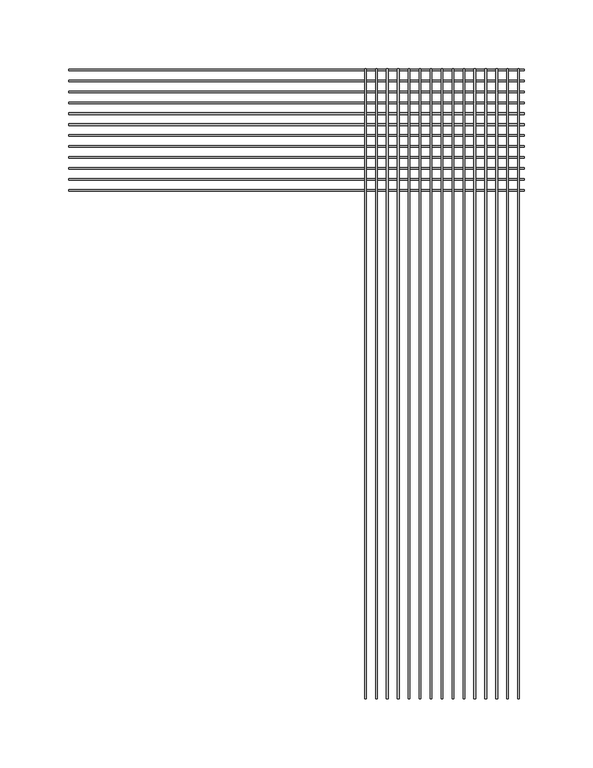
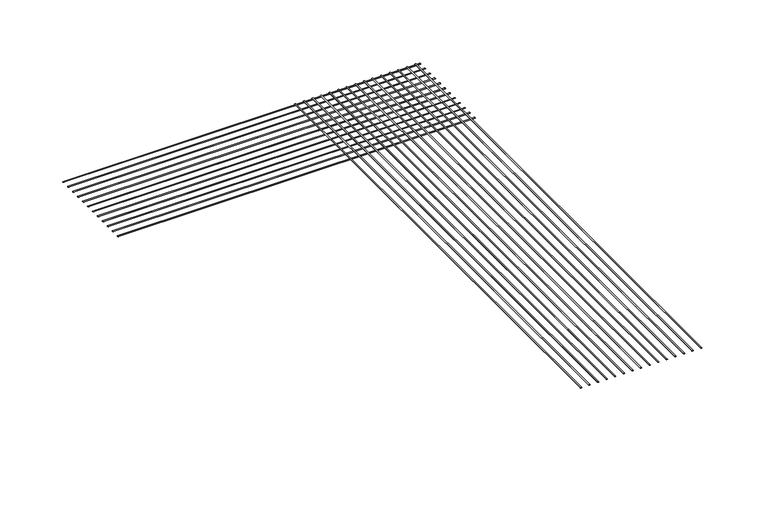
"""IFC4 building model written with IfcOpenShell, lengths in millimetres: proxy geometry, CRAi Generic Model Mesh Piece Face Based : CRAi Generic Model Mesh Piece Face Based."""

from ifc_helpers import new_model, si_unit, point, frame, origin, place, context, project, spatial, ellipse_curve, trimmed, source, transform, mapped, element, save
from ifc_brep_helpers import plane_surface, extruded_surface, advanced_brep


def generic_models_d0d128fb(model_context):
    return source(origin(), model_context, "Body", "AdvancedBrep", [
        advanced_brep(
        [(49.4109375, -228.6, -2.5796875), (50.6015625, -228.6, -2.5796875), (49.4109375, 228.6, -2.5796875), (50.6015625, 228.6, -2.5796875)],
        [
            (0, 1, ellipse_curve(frame((50.00625, -228.6, -2.5796875), z_axis=(0.0, -1.0, 0.0), x_axis=(1.0, 0.0, 0.0)), 0.5953125, 0.1984375)),
            (1, 0, ellipse_curve(frame((50.00625, -228.6, -2.5796875), z_axis=(0.0, -1.0, 0.0), x_axis=(1.0, 0.0, 0.0)), 0.5953125, 0.1984375)),
            (2, 3, ellipse_curve(frame((50.00625, 228.6, -2.5796875), z_axis=(0.0, 1.0, 0.0), x_axis=(1.0, 0.0, 0.0)), 0.5953125, 0.1984375)),
            (3, 2, ellipse_curve(frame((50.00625, 228.6, -2.5796875), z_axis=(0.0, 1.0, 0.0), x_axis=(1.0, 0.0, 0.0)), 0.5953125, 0.1984375)),
            (0, 2),
            (3, 1),
        ],
        [
            plane_surface(frame((50.00625, -228.6, -2.5796875), z_axis=(0.0, -1.0, 0.0), x_axis=(0.0, 0.0, 1.0))),
            plane_surface(frame((50.00625, 228.6, -2.5796875), z_axis=(0.0, 1.0, 0.0), x_axis=(0.0, 0.0, 1.0))),
            extruded_surface(trimmed(ellipse_curve(frame((50.00625, 228.6, -2.5796875), z_axis=(0.0, -1.0, 0.0), x_axis=(1.0, 0.0, 0.0)), 0.5953125, 0.1984375), [point((49.4109375, 228.6, -2.5796875))], [point((50.6015625, 228.6, -2.5796875))], True, "CARTESIAN"), (0.0, -457.2, 0.0), 457.2),
            extruded_surface(trimmed(ellipse_curve(frame((50.00625, 228.6, -2.5796875), z_axis=(0.0, -1.0, 0.0), x_axis=(1.0, 0.0, 0.0)), 0.5953125, 0.1984375), [point((50.6015625, 228.6, -2.5796875))], [point((49.4109375, 228.6, -2.5796875))], True, "CARTESIAN"), (0.0, -457.2, 0.0), 457.2),
        ],
        [
            (0, [[1, 2]]),
            (1, [[3, 4]]),
            (2, [[-1, 5, -4, 6]]),
            (3, [[-2, -6, -3, -5]]),
        ],
    ),
        advanced_brep(
        [(57.3484375, -228.6, -2.5796875), (58.5390625, -228.6, -2.5796875), (57.3484375, 228.6, -2.5796875), (58.5390625, 228.6, -2.5796875)],
        [
            (0, 1, ellipse_curve(frame((57.94375, -228.6, -2.5796875), z_axis=(0.0, -1.0, 0.0), x_axis=(1.0, 0.0, 0.0)), 0.5953125, 0.1984375)),
            (1, 0, ellipse_curve(frame((57.94375, -228.6, -2.5796875), z_axis=(0.0, -1.0, 0.0), x_axis=(1.0, 0.0, 0.0)), 0.5953125, 0.1984375)),
            (2, 3, ellipse_curve(frame((57.94375, 228.6, -2.5796875), z_axis=(0.0, 1.0, 0.0), x_axis=(1.0, 0.0, 0.0)), 0.5953125, 0.1984375)),
            (3, 2, ellipse_curve(frame((57.94375, 228.6, -2.5796875), z_axis=(0.0, 1.0, 0.0), x_axis=(1.0, 0.0, 0.0)), 0.5953125, 0.1984375)),
            (0, 2),
            (3, 1),
        ],
        [
            plane_surface(frame((57.94375, -228.6, -2.5796875), z_axis=(0.0, -1.0, 0.0), x_axis=(0.0, 0.0, 1.0))),
            plane_surface(frame((57.94375, 228.6, -2.5796875), z_axis=(0.0, 1.0, 0.0), x_axis=(0.0, 0.0, 1.0))),
            extruded_surface(trimmed(ellipse_curve(frame((57.94375, 228.6, -2.5796875), z_axis=(0.0, -1.0, 0.0), x_axis=(1.0, 0.0, 0.0)), 0.5953125, 0.1984375), [point((57.3484375, 228.6, -2.5796875))], [point((58.5390625, 228.6, -2.5796875))], True, "CARTESIAN"), (0.0, -457.2, 0.0), 457.2),
            extruded_surface(trimmed(ellipse_curve(frame((57.94375, 228.6, -2.5796875), z_axis=(0.0, -1.0, 0.0), x_axis=(1.0, 0.0, 0.0)), 0.5953125, 0.1984375), [point((58.5390625, 228.6, -2.5796875))], [point((57.3484375, 228.6, -2.5796875))], True, "CARTESIAN"), (0.0, -457.2, 0.0), 457.2),
        ],
        [
            (0, [[1, 2]]),
            (1, [[3, 4]]),
            (2, [[-1, 5, -4, 6]]),
            (3, [[-2, -6, -3, -5]]),
        ],
    ),
        advanced_brep(
        [(65.2859375, -228.6, -2.5796875), (66.4765625, -228.6, -2.5796875), (65.2859375, 228.6, -2.5796875), (66.4765625, 228.6, -2.5796875)],
        [
            (0, 1, ellipse_curve(frame((65.88125, -228.6, -2.5796875), z_axis=(0.0, -1.0, 0.0), x_axis=(1.0, 0.0, 0.0)), 0.5953125, 0.1984375)),
            (1, 0, ellipse_curve(frame((65.88125, -228.6, -2.5796875), z_axis=(0.0, -1.0, 0.0), x_axis=(1.0, 0.0, 0.0)), 0.5953125, 0.1984375)),
            (2, 3, ellipse_curve(frame((65.88125, 228.6, -2.5796875), z_axis=(0.0, 1.0, 0.0), x_axis=(1.0, 0.0, 0.0)), 0.5953125, 0.1984375)),
            (3, 2, ellipse_curve(frame((65.88125, 228.6, -2.5796875), z_axis=(0.0, 1.0, 0.0), x_axis=(1.0, 0.0, 0.0)), 0.5953125, 0.1984375)),
            (0, 2),
            (3, 1),
        ],
        [
            plane_surface(frame((65.88125, -228.6, -2.5796875), z_axis=(0.0, -1.0, 0.0), x_axis=(0.0, 0.0, 1.0))),
            plane_surface(frame((65.88125, 228.6, -2.5796875), z_axis=(0.0, 1.0, 0.0), x_axis=(0.0, 0.0, 1.0))),
            extruded_surface(trimmed(ellipse_curve(frame((65.88125, 228.6, -2.5796875), z_axis=(0.0, -1.0, 0.0), x_axis=(1.0, 0.0, 0.0)), 0.5953125, 0.1984375), [point((65.2859375, 228.6, -2.5796875))], [point((66.4765625, 228.6, -2.5796875))], True, "CARTESIAN"), (0.0, -457.2, 0.0), 457.2),
            extruded_surface(trimmed(ellipse_curve(frame((65.88125, 228.6, -2.5796875), z_axis=(0.0, -1.0, 0.0), x_axis=(1.0, 0.0, 0.0)), 0.5953125, 0.1984375), [point((66.4765625, 228.6, -2.5796875))], [point((65.2859375, 228.6, -2.5796875))], True, "CARTESIAN"), (0.0, -457.2, 0.0), 457.2),
        ],
        [
            (0, [[1, 2]]),
            (1, [[3, 4]]),
            (2, [[-1, 5, -4, 6]]),
            (3, [[-2, -6, -3, -5]]),
        ],
    ),
        advanced_brep(
        [(73.2234375, -228.6, -2.5796875), (74.4140625, -228.6, -2.5796875), (73.2234375, 228.6, -2.5796875), (74.4140625, 228.6, -2.5796875)],
        [
            (0, 1, ellipse_curve(frame((73.81875, -228.6, -2.5796875), z_axis=(0.0, -1.0, 0.0), x_axis=(1.0, 0.0, 0.0)), 0.5953125, 0.1984375)),
            (1, 0, ellipse_curve(frame((73.81875, -228.6, -2.5796875), z_axis=(0.0, -1.0, 0.0), x_axis=(1.0, 0.0, 0.0)), 0.5953125, 0.1984375)),
            (2, 3, ellipse_curve(frame((73.81875, 228.6, -2.5796875), z_axis=(0.0, 1.0, 0.0), x_axis=(1.0, 0.0, 0.0)), 0.5953125, 0.1984375)),
            (3, 2, ellipse_curve(frame((73.81875, 228.6, -2.5796875), z_axis=(0.0, 1.0, 0.0), x_axis=(1.0, 0.0, 0.0)), 0.5953125, 0.1984375)),
            (0, 2),
            (3, 1),
        ],
        [
            plane_surface(frame((73.81875, -228.6, -2.5796875), z_axis=(0.0, -1.0, 0.0), x_axis=(0.0, 0.0, 1.0))),
            plane_surface(frame((73.81875, 228.6, -2.5796875), z_axis=(0.0, 1.0, 0.0), x_axis=(0.0, 0.0, 1.0))),
            extruded_surface(trimmed(ellipse_curve(frame((73.81875, 228.6, -2.5796875), z_axis=(0.0, -1.0, 0.0), x_axis=(1.0, 0.0, 0.0)), 0.5953125, 0.1984375), [point((73.2234375, 228.6, -2.5796875))], [point((74.4140625, 228.6, -2.5796875))], True, "CARTESIAN"), (0.0, -457.2, 0.0), 457.2),
            extruded_surface(trimmed(ellipse_curve(frame((73.81875, 228.6, -2.5796875), z_axis=(0.0, -1.0, 0.0), x_axis=(1.0, 0.0, 0.0)), 0.5953125, 0.1984375), [point((74.4140625, 228.6, -2.5796875))], [point((73.2234375, 228.6, -2.5796875))], True, "CARTESIAN"), (0.0, -457.2, 0.0), 457.2),
        ],
        [
            (0, [[1, 2]]),
            (1, [[3, 4]]),
            (2, [[-1, 5, -4, 6]]),
            (3, [[-2, -6, -3, -5]]),
        ],
    ),
        advanced_brep(
        [(81.1609375, -228.6, -2.5796875), (82.3515625, -228.6, -2.5796875), (81.1609375, 228.6, -2.5796875), (82.3515625, 228.6, -2.5796875)],
        [
            (0, 1, ellipse_curve(frame((81.75625, -228.6, -2.5796875), z_axis=(0.0, -1.0, 0.0), x_axis=(1.0, 0.0, 0.0)), 0.5953125, 0.1984375)),
            (1, 0, ellipse_curve(frame((81.75625, -228.6, -2.5796875), z_axis=(0.0, -1.0, 0.0), x_axis=(1.0, 0.0, 0.0)), 0.5953125, 0.1984375)),
            (2, 3, ellipse_curve(frame((81.75625, 228.6, -2.5796875), z_axis=(0.0, 1.0, 0.0), x_axis=(1.0, 0.0, 0.0)), 0.5953125, 0.1984375)),
            (3, 2, ellipse_curve(frame((81.75625, 228.6, -2.5796875), z_axis=(0.0, 1.0, 0.0), x_axis=(1.0, 0.0, 0.0)), 0.5953125, 0.1984375)),
            (0, 2),
            (3, 1),
        ],
        [
            plane_surface(frame((81.75625, -228.6, -2.5796875), z_axis=(0.0, -1.0, 0.0), x_axis=(0.0, 0.0, 1.0))),
            plane_surface(frame((81.75625, 228.6, -2.5796875), z_axis=(0.0, 1.0, 0.0), x_axis=(0.0, 0.0, 1.0))),
            extruded_surface(trimmed(ellipse_curve(frame((81.75625, 228.6, -2.5796875), z_axis=(0.0, -1.0, 0.0), x_axis=(1.0, 0.0, 0.0)), 0.5953125, 0.1984375), [point((81.1609375, 228.6, -2.5796875))], [point((82.3515625, 228.6, -2.5796875))], True, "CARTESIAN"), (0.0, -457.2, 0.0), 457.2),
            extruded_surface(trimmed(ellipse_curve(frame((81.75625, 228.6, -2.5796875), z_axis=(0.0, -1.0, 0.0), x_axis=(1.0, 0.0, 0.0)), 0.5953125, 0.1984375), [point((82.3515625, 228.6, -2.5796875))], [point((81.1609375, 228.6, -2.5796875))], True, "CARTESIAN"), (0.0, -457.2, 0.0), 457.2),
        ],
        [
            (0, [[1, 2]]),
            (1, [[3, 4]]),
            (2, [[-1, 5, -4, 6]]),
            (3, [[-2, -6, -3, -5]]),
        ],
    ),
        advanced_brep(
        [(89.0984375, -228.6, -2.5796875), (90.2890625, -228.6, -2.5796875), (89.0984375, 228.6, -2.5796875), (90.2890625, 228.6, -2.5796875)],
        [
            (0, 1, ellipse_curve(frame((89.69375, -228.6, -2.5796875), z_axis=(0.0, -1.0, 0.0), x_axis=(1.0, 0.0, 0.0)), 0.5953125, 0.1984375)),
            (1, 0, ellipse_curve(frame((89.69375, -228.6, -2.5796875), z_axis=(0.0, -1.0, 0.0), x_axis=(1.0, 0.0, 0.0)), 0.5953125, 0.1984375)),
            (2, 3, ellipse_curve(frame((89.69375, 228.6, -2.5796875), z_axis=(0.0, 1.0, 0.0), x_axis=(1.0, 0.0, 0.0)), 0.5953125, 0.1984375)),
            (3, 2, ellipse_curve(frame((89.69375, 228.6, -2.5796875), z_axis=(0.0, 1.0, 0.0), x_axis=(1.0, 0.0, 0.0)), 0.5953125, 0.1984375)),
            (0, 2),
            (3, 1),
        ],
        [
            plane_surface(frame((89.69375, -228.6, -2.5796875), z_axis=(0.0, -1.0, 0.0), x_axis=(0.0, 0.0, 1.0))),
            plane_surface(frame((89.69375, 228.6, -2.5796875), z_axis=(0.0, 1.0, 0.0), x_axis=(0.0, 0.0, 1.0))),
            extruded_surface(trimmed(ellipse_curve(frame((89.69375, 228.6, -2.5796875), z_axis=(0.0, -1.0, 0.0), x_axis=(1.0, 0.0, 0.0)), 0.5953125, 0.1984375), [point((89.0984375, 228.6, -2.5796875))], [point((90.2890625, 228.6, -2.5796875))], True, "CARTESIAN"), (0.0, -457.2, 0.0), 457.2),
            extruded_surface(trimmed(ellipse_curve(frame((89.69375, 228.6, -2.5796875), z_axis=(0.0, -1.0, 0.0), x_axis=(1.0, 0.0, 0.0)), 0.5953125, 0.1984375), [point((90.2890625, 228.6, -2.5796875))], [point((89.0984375, 228.6, -2.5796875))], True, "CARTESIAN"), (0.0, -457.2, 0.0), 457.2),
        ],
        [
            (0, [[1, 2]]),
            (1, [[3, 4]]),
            (2, [[-1, 5, -4, 6]]),
            (3, [[-2, -6, -3, -5]]),
        ],
    ),
        advanced_brep(
        [(97.0359375, -228.6, -2.5796875), (98.2265625, -228.6, -2.5796875), (97.0359375, 228.6, -2.5796875), (98.2265625, 228.6, -2.5796875)],
        [
            (0, 1, ellipse_curve(frame((97.63125, -228.6, -2.5796875), z_axis=(0.0, -1.0, 0.0), x_axis=(1.0, 0.0, 0.0)), 0.5953125, 0.1984375)),
            (1, 0, ellipse_curve(frame((97.63125, -228.6, -2.5796875), z_axis=(0.0, -1.0, 0.0), x_axis=(1.0, 0.0, 0.0)), 0.5953125, 0.1984375)),
            (2, 3, ellipse_curve(frame((97.63125, 228.6, -2.5796875), z_axis=(0.0, 1.0, 0.0), x_axis=(1.0, 0.0, 0.0)), 0.5953125, 0.1984375)),
            (3, 2, ellipse_curve(frame((97.63125, 228.6, -2.5796875), z_axis=(0.0, 1.0, 0.0), x_axis=(1.0, 0.0, 0.0)), 0.5953125, 0.1984375)),
            (0, 2),
            (3, 1),
        ],
        [
            plane_surface(frame((97.63125, -228.6, -2.5796875), z_axis=(0.0, -1.0, 0.0), x_axis=(0.0, 0.0, 1.0))),
            plane_surface(frame((97.63125, 228.6, -2.5796875), z_axis=(0.0, 1.0, 0.0), x_axis=(0.0, 0.0, 1.0))),
            extruded_surface(trimmed(ellipse_curve(frame((97.63125, 228.6, -2.5796875), z_axis=(0.0, -1.0, 0.0), x_axis=(1.0, 0.0, 0.0)), 0.5953125, 0.1984375), [point((97.0359375, 228.6, -2.5796875))], [point((98.2265625, 228.6, -2.5796875))], True, "CARTESIAN"), (0.0, -457.2, 0.0), 457.2),
            extruded_surface(trimmed(ellipse_curve(frame((97.63125, 228.6, -2.5796875), z_axis=(0.0, -1.0, 0.0), x_axis=(1.0, 0.0, 0.0)), 0.5953125, 0.1984375), [point((98.2265625, 228.6, -2.5796875))], [point((97.0359375, 228.6, -2.5796875))], True, "CARTESIAN"), (0.0, -457.2, 0.0), 457.2),
        ],
        [
            (0, [[1, 2]]),
            (1, [[3, 4]]),
            (2, [[-1, 5, -4, 6]]),
            (3, [[-2, -6, -3, -5]]),
        ],
    ),
        advanced_brep(
        [(104.9734375, -228.6, -2.5796875), (106.1640625, -228.6, -2.5796875), (104.9734375, 228.6, -2.5796875), (106.1640625, 228.6, -2.5796875)],
        [
            (0, 1, ellipse_curve(frame((105.56875, -228.6, -2.5796875), z_axis=(0.0, -1.0, 0.0), x_axis=(1.0, 0.0, 0.0)), 0.5953125, 0.1984375)),
            (1, 0, ellipse_curve(frame((105.56875, -228.6, -2.5796875), z_axis=(0.0, -1.0, 0.0), x_axis=(1.0, 0.0, 0.0)), 0.5953125, 0.1984375)),
            (2, 3, ellipse_curve(frame((105.56875, 228.6, -2.5796875), z_axis=(0.0, 1.0, 0.0), x_axis=(1.0, 0.0, 0.0)), 0.5953125, 0.1984375)),
            (3, 2, ellipse_curve(frame((105.56875, 228.6, -2.5796875), z_axis=(0.0, 1.0, 0.0), x_axis=(1.0, 0.0, 0.0)), 0.5953125, 0.1984375)),
            (0, 2),
            (3, 1),
        ],
        [
            plane_surface(frame((105.56875, -228.6, -2.5796875), z_axis=(0.0, -1.0, 0.0), x_axis=(0.0, 0.0, 1.0))),
            plane_surface(frame((105.56875, 228.6, -2.5796875), z_axis=(0.0, 1.0, 0.0), x_axis=(0.0, 0.0, 1.0))),
            extruded_surface(trimmed(ellipse_curve(frame((105.56875, 228.6, -2.5796875), z_axis=(0.0, -1.0, 0.0), x_axis=(1.0, 0.0, 0.0)), 0.5953125, 0.1984375), [point((104.9734375, 228.6, -2.5796875))], [point((106.1640625, 228.6, -2.5796875))], True, "CARTESIAN"), (0.0, -457.2, 0.0), 457.2),
            extruded_surface(trimmed(ellipse_curve(frame((105.56875, 228.6, -2.5796875), z_axis=(0.0, -1.0, 0.0), x_axis=(1.0, 0.0, 0.0)), 0.5953125, 0.1984375), [point((106.1640625, 228.6, -2.5796875))], [point((104.9734375, 228.6, -2.5796875))], True, "CARTESIAN"), (0.0, -457.2, 0.0), 457.2),
        ],
        [
            (0, [[1, 2]]),
            (1, [[3, 4]]),
            (2, [[-1, 5, -4, 6]]),
            (3, [[-2, -6, -3, -5]]),
        ],
    ),
        advanced_brep(
        [(112.9109375, -228.6, -2.5796875), (114.1015625, -228.6, -2.5796875), (112.9109375, 228.6, -2.5796875), (114.1015625, 228.6, -2.5796875)],
        [
            (0, 1, ellipse_curve(frame((113.50625, -228.6, -2.5796875), z_axis=(0.0, -1.0, 0.0), x_axis=(1.0, 0.0, 0.0)), 0.5953125, 0.1984375)),
            (1, 0, ellipse_curve(frame((113.50625, -228.6, -2.5796875), z_axis=(0.0, -1.0, 0.0), x_axis=(1.0, 0.0, 0.0)), 0.5953125, 0.1984375)),
            (2, 3, ellipse_curve(frame((113.50625, 228.6, -2.5796875), z_axis=(0.0, 1.0, 0.0), x_axis=(1.0, 0.0, 0.0)), 0.5953125, 0.1984375)),
            (3, 2, ellipse_curve(frame((113.50625, 228.6, -2.5796875), z_axis=(0.0, 1.0, 0.0), x_axis=(1.0, 0.0, 0.0)), 0.5953125, 0.1984375)),
            (0, 2),
            (3, 1),
        ],
        [
            plane_surface(frame((113.50625, -228.6, -2.5796875), z_axis=(0.0, -1.0, 0.0), x_axis=(0.0, 0.0, 1.0))),
            plane_surface(frame((113.50625, 228.6, -2.5796875), z_axis=(0.0, 1.0, 0.0), x_axis=(0.0, 0.0, 1.0))),
            extruded_surface(trimmed(ellipse_curve(frame((113.50625, 228.6, -2.5796875), z_axis=(0.0, -1.0, 0.0), x_axis=(1.0, 0.0, 0.0)), 0.5953125, 0.1984375), [point((112.9109375, 228.6, -2.5796875))], [point((114.1015625, 228.6, -2.5796875))], True, "CARTESIAN"), (0.0, -457.2, 0.0), 457.2),
            extruded_surface(trimmed(ellipse_curve(frame((113.50625, 228.6, -2.5796875), z_axis=(0.0, -1.0, 0.0), x_axis=(1.0, 0.0, 0.0)), 0.5953125, 0.1984375), [point((114.1015625, 228.6, -2.5796875))], [point((112.9109375, 228.6, -2.5796875))], True, "CARTESIAN"), (0.0, -457.2, 0.0), 457.2),
        ],
        [
            (0, [[1, 2]]),
            (1, [[3, 4]]),
            (2, [[-1, 5, -4, 6]]),
            (3, [[-2, -6, -3, -5]]),
        ],
    ),
        advanced_brep(
        [(120.8484375, -228.6, -2.5796875), (122.0390625, -228.6, -2.5796875), (120.8484375, 228.6, -2.5796875), (122.0390625, 228.6, -2.5796875)],
        [
            (0, 1, ellipse_curve(frame((121.44375, -228.6, -2.5796875), z_axis=(0.0, -1.0, 0.0), x_axis=(1.0, 0.0, 0.0)), 0.5953125, 0.1984375)),
            (1, 0, ellipse_curve(frame((121.44375, -228.6, -2.5796875), z_axis=(0.0, -1.0, 0.0), x_axis=(1.0, 0.0, 0.0)), 0.5953125, 0.1984375)),
            (2, 3, ellipse_curve(frame((121.44375, 228.6, -2.5796875), z_axis=(0.0, 1.0, 0.0), x_axis=(1.0, 0.0, 0.0)), 0.5953125, 0.1984375)),
            (3, 2, ellipse_curve(frame((121.44375, 228.6, -2.5796875), z_axis=(0.0, 1.0, 0.0), x_axis=(1.0, 0.0, 0.0)), 0.5953125, 0.1984375)),
            (0, 2),
            (3, 1),
        ],
        [
            plane_surface(frame((121.44375, -228.6, -2.5796875), z_axis=(0.0, -1.0, 0.0), x_axis=(0.0, 0.0, 1.0))),
            plane_surface(frame((121.44375, 228.6, -2.5796875), z_axis=(0.0, 1.0, 0.0), x_axis=(0.0, 0.0, 1.0))),
            extruded_surface(trimmed(ellipse_curve(frame((121.44375, 228.6, -2.5796875), z_axis=(0.0, -1.0, 0.0), x_axis=(1.0, 0.0, 0.0)), 0.5953125, 0.1984375), [point((120.8484375, 228.6, -2.5796875))], [point((122.0390625, 228.6, -2.5796875))], True, "CARTESIAN"), (0.0, -457.2, 0.0), 457.2),
            extruded_surface(trimmed(ellipse_curve(frame((121.44375, 228.6, -2.5796875), z_axis=(0.0, -1.0, 0.0), x_axis=(1.0, 0.0, 0.0)), 0.5953125, 0.1984375), [point((122.0390625, 228.6, -2.5796875))], [point((120.8484375, 228.6, -2.5796875))], True, "CARTESIAN"), (0.0, -457.2, 0.0), 457.2),
        ],
        [
            (0, [[1, 2]]),
            (1, [[3, 4]]),
            (2, [[-1, 5, -4, 6]]),
            (3, [[-2, -6, -3, -5]]),
        ],
    ),
        advanced_brep(
        [(128.7859375, -228.6, -2.5796875), (129.9765625, -228.6, -2.5796875), (128.7859375, 228.6, -2.5796875), (129.9765625, 228.6, -2.5796875)],
        [
            (0, 1, ellipse_curve(frame((129.38125, -228.6, -2.5796875), z_axis=(0.0, -1.0, 0.0), x_axis=(1.0, 0.0, 0.0)), 0.5953125, 0.1984375)),
            (1, 0, ellipse_curve(frame((129.38125, -228.6, -2.5796875), z_axis=(0.0, -1.0, 0.0), x_axis=(1.0, 0.0, 0.0)), 0.5953125, 0.1984375)),
            (2, 3, ellipse_curve(frame((129.38125, 228.6, -2.5796875), z_axis=(0.0, 1.0, 0.0), x_axis=(1.0, 0.0, 0.0)), 0.5953125, 0.1984375)),
            (3, 2, ellipse_curve(frame((129.38125, 228.6, -2.5796875), z_axis=(0.0, 1.0, 0.0), x_axis=(1.0, 0.0, 0.0)), 0.5953125, 0.1984375)),
            (0, 2),
            (3, 1),
        ],
        [
            plane_surface(frame((129.38125, -228.6, -2.5796875), z_axis=(0.0, -1.0, 0.0), x_axis=(0.0, 0.0, 1.0))),
            plane_surface(frame((129.38125, 228.6, -2.5796875), z_axis=(0.0, 1.0, 0.0), x_axis=(0.0, 0.0, 1.0))),
            extruded_surface(trimmed(ellipse_curve(frame((129.38125, 228.6, -2.5796875), z_axis=(0.0, -1.0, 0.0), x_axis=(1.0, 0.0, 0.0)), 0.5953125, 0.1984375), [point((128.7859375, 228.6, -2.5796875))], [point((129.9765625, 228.6, -2.5796875))], True, "CARTESIAN"), (0.0, -457.2, 0.0), 457.2),
            extruded_surface(trimmed(ellipse_curve(frame((129.38125, 228.6, -2.5796875), z_axis=(0.0, -1.0, 0.0), x_axis=(1.0, 0.0, 0.0)), 0.5953125, 0.1984375), [point((129.9765625, 228.6, -2.5796875))], [point((128.7859375, 228.6, -2.5796875))], True, "CARTESIAN"), (0.0, -457.2, 0.0), 457.2),
        ],
        [
            (0, [[1, 2]]),
            (1, [[3, 4]]),
            (2, [[-1, 5, -4, 6]]),
            (3, [[-2, -6, -3, -5]]),
        ],
    ),
        advanced_brep(
        [(136.7234375, -228.6, -2.5796875), (137.9140625, -228.6, -2.5796875), (136.7234375, 228.6, -2.5796875), (137.9140625, 228.6, -2.5796875)],
        [
            (0, 1, ellipse_curve(frame((137.31875, -228.6, -2.5796875), z_axis=(0.0, -1.0, 0.0), x_axis=(1.0, 0.0, 0.0)), 0.5953125, 0.1984375)),
            (1, 0, ellipse_curve(frame((137.31875, -228.6, -2.5796875), z_axis=(0.0, -1.0, 0.0), x_axis=(1.0, 0.0, 0.0)), 0.5953125, 0.1984375)),
            (2, 3, ellipse_curve(frame((137.31875, 228.6, -2.5796875), z_axis=(0.0, 1.0, 0.0), x_axis=(1.0, 0.0, 0.0)), 0.5953125, 0.1984375)),
            (3, 2, ellipse_curve(frame((137.31875, 228.6, -2.5796875), z_axis=(0.0, 1.0, 0.0), x_axis=(1.0, 0.0, 0.0)), 0.5953125, 0.1984375)),
            (0, 2),
            (3, 1),
        ],
        [
            plane_surface(frame((137.31875, -228.6, -2.5796875), z_axis=(0.0, -1.0, 0.0), x_axis=(0.0, 0.0, 1.0))),
            plane_surface(frame((137.31875, 228.6, -2.5796875), z_axis=(0.0, 1.0, 0.0), x_axis=(0.0, 0.0, 1.0))),
            extruded_surface(trimmed(ellipse_curve(frame((137.31875, 228.6, -2.5796875), z_axis=(0.0, -1.0, 0.0), x_axis=(1.0, 0.0, 0.0)), 0.5953125, 0.1984375), [point((136.7234375, 228.6, -2.5796875))], [point((137.9140625, 228.6, -2.5796875))], True, "CARTESIAN"), (0.0, -457.2, 0.0), 457.2),
            extruded_surface(trimmed(ellipse_curve(frame((137.31875, 228.6, -2.5796875), z_axis=(0.0, -1.0, 0.0), x_axis=(1.0, 0.0, 0.0)), 0.5953125, 0.1984375), [point((137.9140625, 228.6, -2.5796875))], [point((136.7234375, 228.6, -2.5796875))], True, "CARTESIAN"), (0.0, -457.2, 0.0), 457.2),
        ],
        [
            (0, [[1, 2]]),
            (1, [[3, 4]]),
            (2, [[-1, 5, -4, 6]]),
            (3, [[-2, -6, -3, -5]]),
        ],
    ),
        advanced_brep(
        [(144.6609375, -228.6, -2.5796875), (145.8515625, -228.6, -2.5796875), (144.6609375, 228.6, -2.5796875), (145.8515625, 228.6, -2.5796875)],
        [
            (0, 1, ellipse_curve(frame((145.25625, -228.6, -2.5796875), z_axis=(0.0, -1.0, 0.0), x_axis=(1.0, 0.0, 0.0)), 0.5953125, 0.1984375)),
            (1, 0, ellipse_curve(frame((145.25625, -228.6, -2.5796875), z_axis=(0.0, -1.0, 0.0), x_axis=(1.0, 0.0, 0.0)), 0.5953125, 0.1984375)),
            (2, 3, ellipse_curve(frame((145.25625, 228.6, -2.5796875), z_axis=(0.0, 1.0, 0.0), x_axis=(1.0, 0.0, 0.0)), 0.5953125, 0.1984375)),
            (3, 2, ellipse_curve(frame((145.25625, 228.6, -2.5796875), z_axis=(0.0, 1.0, 0.0), x_axis=(1.0, 0.0, 0.0)), 0.5953125, 0.1984375)),
            (0, 2),
            (3, 1),
        ],
        [
            plane_surface(frame((145.25625, -228.6, -2.5796875), z_axis=(0.0, -1.0, 0.0), x_axis=(0.0, 0.0, 1.0))),
            plane_surface(frame((145.25625, 228.6, -2.5796875), z_axis=(0.0, 1.0, 0.0), x_axis=(0.0, 0.0, 1.0))),
            extruded_surface(trimmed(ellipse_curve(frame((145.25625, 228.6, -2.5796875), z_axis=(0.0, -1.0, 0.0), x_axis=(1.0, 0.0, 0.0)), 0.5953125, 0.1984375), [point((144.6609375, 228.6, -2.5796875))], [point((145.8515625, 228.6, -2.5796875))], True, "CARTESIAN"), (0.0, -457.2, 0.0), 457.2),
            extruded_surface(trimmed(ellipse_curve(frame((145.25625, 228.6, -2.5796875), z_axis=(0.0, -1.0, 0.0), x_axis=(1.0, 0.0, 0.0)), 0.5953125, 0.1984375), [point((145.8515625, 228.6, -2.5796875))], [point((144.6609375, 228.6, -2.5796875))], True, "CARTESIAN"), (0.0, -457.2, 0.0), 457.2),
        ],
        [
            (0, [[1, 2]]),
            (1, [[3, 4]]),
            (2, [[-1, 5, -4, 6]]),
            (3, [[-2, -6, -3, -5]]),
        ],
    ),
        advanced_brep(
        [(152.5984375, -228.6, -2.5796875), (153.7890625, -228.6, -2.5796875), (152.5984375, 228.6, -2.5796875), (153.7890625, 228.6, -2.5796875)],
        [
            (0, 1, ellipse_curve(frame((153.19375, -228.6, -2.5796875), z_axis=(0.0, -1.0, 0.0), x_axis=(1.0, 0.0, 0.0)), 0.5953125, 0.1984375)),
            (1, 0, ellipse_curve(frame((153.19375, -228.6, -2.5796875), z_axis=(0.0, -1.0, 0.0), x_axis=(1.0, 0.0, 0.0)), 0.5953125, 0.1984375)),
            (2, 3, ellipse_curve(frame((153.19375, 228.6, -2.5796875), z_axis=(0.0, 1.0, 0.0), x_axis=(1.0, 0.0, 0.0)), 0.5953125, 0.1984375)),
            (3, 2, ellipse_curve(frame((153.19375, 228.6, -2.5796875), z_axis=(0.0, 1.0, 0.0), x_axis=(1.0, 0.0, 0.0)), 0.5953125, 0.1984375)),
            (0, 2),
            (3, 1),
        ],
        [
            plane_surface(frame((153.19375, -228.6, -2.5796875), z_axis=(0.0, -1.0, 0.0), x_axis=(0.0, 0.0, 1.0))),
            plane_surface(frame((153.19375, 228.6, -2.5796875), z_axis=(0.0, 1.0, 0.0), x_axis=(0.0, 0.0, 1.0))),
            extruded_surface(trimmed(ellipse_curve(frame((153.19375, 228.6, -2.5796875), z_axis=(0.0, -1.0, 0.0), x_axis=(1.0, 0.0, 0.0)), 0.5953125, 0.1984375), [point((152.5984375, 228.6, -2.5796875))], [point((153.7890625, 228.6, -2.5796875))], True, "CARTESIAN"), (0.0, -457.2, 0.0), 457.2),
            extruded_surface(trimmed(ellipse_curve(frame((153.19375, 228.6, -2.5796875), z_axis=(0.0, -1.0, 0.0), x_axis=(1.0, 0.0, 0.0)), 0.5953125, 0.1984375), [point((153.7890625, 228.6, -2.5796875))], [point((152.5984375, 228.6, -2.5796875))], True, "CARTESIAN"), (0.0, -457.2, 0.0), 457.2),
        ],
        [
            (0, [[1, 2]]),
            (1, [[3, 4]]),
            (2, [[-1, 5, -4, 6]]),
            (3, [[-2, -6, -3, -5]]),
        ],
    ),
        advanced_brep(
        [(160.5359375, -228.6, -2.5796875), (161.7265625, -228.6, -2.5796875), (160.5359375, 228.6, -2.5796875), (161.7265625, 228.6, -2.5796875)],
        [
            (0, 1, ellipse_curve(frame((161.13125, -228.6, -2.5796875), z_axis=(0.0, -1.0, 0.0), x_axis=(1.0, 0.0, 0.0)), 0.5953125, 0.1984375)),
            (1, 0, ellipse_curve(frame((161.13125, -228.6, -2.5796875), z_axis=(0.0, -1.0, 0.0), x_axis=(1.0, 0.0, 0.0)), 0.5953125, 0.1984375)),
            (2, 3, ellipse_curve(frame((161.13125, 228.6, -2.5796875), z_axis=(0.0, 1.0, 0.0), x_axis=(1.0, 0.0, 0.0)), 0.5953125, 0.1984375)),
            (3, 2, ellipse_curve(frame((161.13125, 228.6, -2.5796875), z_axis=(0.0, 1.0, 0.0), x_axis=(1.0, 0.0, 0.0)), 0.5953125, 0.1984375)),
            (0, 2),
            (3, 1),
        ],
        [
            plane_surface(frame((161.13125, -228.6, -2.5796875), z_axis=(0.0, -1.0, 0.0), x_axis=(0.0, 0.0, 1.0))),
            plane_surface(frame((161.13125, 228.6, -2.5796875), z_axis=(0.0, 1.0, 0.0), x_axis=(0.0, 0.0, 1.0))),
            extruded_surface(trimmed(ellipse_curve(frame((161.13125, 228.6, -2.5796875), z_axis=(0.0, -1.0, 0.0), x_axis=(1.0, 0.0, 0.0)), 0.5953125, 0.1984375), [point((160.5359375, 228.6, -2.5796875))], [point((161.7265625, 228.6, -2.5796875))], True, "CARTESIAN"), (0.0, -457.2, 0.0), 457.2),
            extruded_surface(trimmed(ellipse_curve(frame((161.13125, 228.6, -2.5796875), z_axis=(0.0, -1.0, 0.0), x_axis=(1.0, 0.0, 0.0)), 0.5953125, 0.1984375), [point((161.7265625, 228.6, -2.5796875))], [point((160.5359375, 228.6, -2.5796875))], True, "CARTESIAN"), (0.0, -457.2, 0.0), 457.2),
        ],
        [
            (0, [[1, 2]]),
            (1, [[3, 4]]),
            (2, [[-1, 5, -4, 6]]),
            (3, [[-2, -6, -3, -5]]),
        ],
    ),
        advanced_brep(
        [(-165.1, 228.4015625, -2.9765625), (-165.1, 227.2109375, -2.9765625), (165.1, 228.4015625, -2.9765625), (165.1, 227.2109375, -2.9765625)],
        [
            (0, 1, ellipse_curve(frame((-165.1, 227.80625, -2.9765625), z_axis=(-1.0, 0.0, 0.0), x_axis=(0.0, -1.0, 0.0)), 0.5953125, 0.1984375)),
            (1, 0, ellipse_curve(frame((-165.1, 227.80625, -2.9765625), z_axis=(-1.0, 0.0, 0.0), x_axis=(0.0, -1.0, 0.0)), 0.5953125, 0.1984375)),
            (2, 3, ellipse_curve(frame((165.1, 227.80625, -2.9765625), z_axis=(1.0, 0.0, 0.0), x_axis=(0.0, -1.0, 0.0)), 0.5953125, 0.1984375)),
            (3, 2, ellipse_curve(frame((165.1, 227.80625, -2.9765625), z_axis=(1.0, 0.0, 0.0), x_axis=(0.0, -1.0, 0.0)), 0.5953125, 0.1984375)),
            (0, 2),
            (3, 1),
        ],
        [
            plane_surface(frame((-165.1, 227.80625, -2.9765625), z_axis=(-1.0, 0.0, 0.0), x_axis=(0.0, 0.0, 1.0))),
            plane_surface(frame((165.1, 227.80625, -2.9765625), z_axis=(1.0, 0.0, 0.0), x_axis=(0.0, 0.0, 1.0))),
            extruded_surface(trimmed(ellipse_curve(frame((165.1, 227.80625, -2.9765625), z_axis=(-1.0, 0.0, 0.0), x_axis=(0.0, -1.0, 0.0)), 0.5953125, 0.1984375), [point((165.1, 228.4015625, -2.9765625))], [point((165.1, 227.2109375, -2.9765625))], True, "CARTESIAN"), (-330.2, 0.0, 0.0), 330.2),
            extruded_surface(trimmed(ellipse_curve(frame((165.1, 227.80625, -2.9765625), z_axis=(-1.0, 0.0, 0.0), x_axis=(0.0, -1.0, 0.0)), 0.5953125, 0.1984375), [point((165.1, 227.2109375, -2.9765625))], [point((165.1, 228.4015625, -2.9765625))], True, "CARTESIAN"), (-330.2, 0.0, 0.0), 330.2),
        ],
        [
            (0, [[1, 2]]),
            (1, [[3, 4]]),
            (2, [[-1, 5, -4, 6]]),
            (3, [[-2, -6, -3, -5]]),
        ],
    ),
        advanced_brep(
        [(-165.1, 220.4640625, -2.9765625), (-165.1, 219.2734375, -2.9765625), (165.1, 220.4640625, -2.9765625), (165.1, 219.2734375, -2.9765625)],
        [
            (0, 1, ellipse_curve(frame((-165.1, 219.86875, -2.9765625), z_axis=(-1.0, 0.0, 0.0), x_axis=(0.0, -1.0, 0.0)), 0.5953125, 0.1984375)),
            (1, 0, ellipse_curve(frame((-165.1, 219.86875, -2.9765625), z_axis=(-1.0, 0.0, 0.0), x_axis=(0.0, -1.0, 0.0)), 0.5953125, 0.1984375)),
            (2, 3, ellipse_curve(frame((165.1, 219.86875, -2.9765625), z_axis=(1.0, 0.0, 0.0), x_axis=(0.0, -1.0, 0.0)), 0.5953125, 0.1984375)),
            (3, 2, ellipse_curve(frame((165.1, 219.86875, -2.9765625), z_axis=(1.0, 0.0, 0.0), x_axis=(0.0, -1.0, 0.0)), 0.5953125, 0.1984375)),
            (0, 2),
            (3, 1),
        ],
        [
            plane_surface(frame((-165.1, 219.86875, -2.9765625), z_axis=(-1.0, 0.0, 0.0), x_axis=(0.0, 0.0, 1.0))),
            plane_surface(frame((165.1, 219.86875, -2.9765625), z_axis=(1.0, 0.0, 0.0), x_axis=(0.0, 0.0, 1.0))),
            extruded_surface(trimmed(ellipse_curve(frame((165.1, 219.86875, -2.9765625), z_axis=(-1.0, 0.0, 0.0), x_axis=(0.0, -1.0, 0.0)), 0.5953125, 0.1984375), [point((165.1, 220.4640625, -2.9765625))], [point((165.1, 219.2734375, -2.9765625))], True, "CARTESIAN"), (-330.2, 0.0, 0.0), 330.2),
            extruded_surface(trimmed(ellipse_curve(frame((165.1, 219.86875, -2.9765625), z_axis=(-1.0, 0.0, 0.0), x_axis=(0.0, -1.0, 0.0)), 0.5953125, 0.1984375), [point((165.1, 219.2734375, -2.9765625))], [point((165.1, 220.4640625, -2.9765625))], True, "CARTESIAN"), (-330.2, 0.0, 0.0), 330.2),
        ],
        [
            (0, [[1, 2]]),
            (1, [[3, 4]]),
            (2, [[-1, 5, -4, 6]]),
            (3, [[-2, -6, -3, -5]]),
        ],
    ),
        advanced_brep(
        [(-165.1, 212.5265625, -2.9765625), (-165.1, 211.3359375, -2.9765625), (165.1, 212.5265625, -2.9765625), (165.1, 211.3359375, -2.9765625)],
        [
            (0, 1, ellipse_curve(frame((-165.1, 211.93125, -2.9765625), z_axis=(-1.0, 0.0, 0.0), x_axis=(0.0, -1.0, 0.0)), 0.5953125, 0.1984375)),
            (1, 0, ellipse_curve(frame((-165.1, 211.93125, -2.9765625), z_axis=(-1.0, 0.0, 0.0), x_axis=(0.0, -1.0, 0.0)), 0.5953125, 0.1984375)),
            (2, 3, ellipse_curve(frame((165.1, 211.93125, -2.9765625), z_axis=(1.0, 0.0, 0.0), x_axis=(0.0, -1.0, 0.0)), 0.5953125, 0.1984375)),
            (3, 2, ellipse_curve(frame((165.1, 211.93125, -2.9765625), z_axis=(1.0, 0.0, 0.0), x_axis=(0.0, -1.0, 0.0)), 0.5953125, 0.1984375)),
            (0, 2),
            (3, 1),
        ],
        [
            plane_surface(frame((-165.1, 211.93125, -2.9765625), z_axis=(-1.0, 0.0, 0.0), x_axis=(0.0, 0.0, 1.0))),
            plane_surface(frame((165.1, 211.93125, -2.9765625), z_axis=(1.0, 0.0, 0.0), x_axis=(0.0, 0.0, 1.0))),
            extruded_surface(trimmed(ellipse_curve(frame((165.1, 211.93125, -2.9765625), z_axis=(-1.0, 0.0, 0.0), x_axis=(0.0, -1.0, 0.0)), 0.5953125, 0.1984375), [point((165.1, 212.5265625, -2.9765625))], [point((165.1, 211.3359375, -2.9765625))], True, "CARTESIAN"), (-330.2, 0.0, 0.0), 330.2),
            extruded_surface(trimmed(ellipse_curve(frame((165.1, 211.93125, -2.9765625), z_axis=(-1.0, 0.0, 0.0), x_axis=(0.0, -1.0, 0.0)), 0.5953125, 0.1984375), [point((165.1, 211.3359375, -2.9765625))], [point((165.1, 212.5265625, -2.9765625))], True, "CARTESIAN"), (-330.2, 0.0, 0.0), 330.2),
        ],
        [
            (0, [[1, 2]]),
            (1, [[3, 4]]),
            (2, [[-1, 5, -4, 6]]),
            (3, [[-2, -6, -3, -5]]),
        ],
    ),
        advanced_brep(
        [(-165.1, 204.5890625, -2.9765625), (-165.1, 203.3984375, -2.9765625), (165.1, 204.5890625, -2.9765625), (165.1, 203.3984375, -2.9765625)],
        [
            (0, 1, ellipse_curve(frame((-165.1, 203.99375, -2.9765625), z_axis=(-1.0, 0.0, 0.0), x_axis=(0.0, -1.0, 0.0)), 0.5953125, 0.1984375)),
            (1, 0, ellipse_curve(frame((-165.1, 203.99375, -2.9765625), z_axis=(-1.0, 0.0, 0.0), x_axis=(0.0, -1.0, 0.0)), 0.5953125, 0.1984375)),
            (2, 3, ellipse_curve(frame((165.1, 203.99375, -2.9765625), z_axis=(1.0, 0.0, 0.0), x_axis=(0.0, -1.0, 0.0)), 0.5953125, 0.1984375)),
            (3, 2, ellipse_curve(frame((165.1, 203.99375, -2.9765625), z_axis=(1.0, 0.0, 0.0), x_axis=(0.0, -1.0, 0.0)), 0.5953125, 0.1984375)),
            (0, 2),
            (3, 1),
        ],
        [
            plane_surface(frame((-165.1, 203.99375, -2.9765625), z_axis=(-1.0, 0.0, 0.0), x_axis=(0.0, 0.0, 1.0))),
            plane_surface(frame((165.1, 203.99375, -2.9765625), z_axis=(1.0, 0.0, 0.0), x_axis=(0.0, 0.0, 1.0))),
            extruded_surface(trimmed(ellipse_curve(frame((165.1, 203.99375, -2.9765625), z_axis=(-1.0, 0.0, 0.0), x_axis=(0.0, -1.0, 0.0)), 0.5953125, 0.1984375), [point((165.1, 204.5890625, -2.9765625))], [point((165.1, 203.3984375, -2.9765625))], True, "CARTESIAN"), (-330.2, 0.0, 0.0), 330.2),
            extruded_surface(trimmed(ellipse_curve(frame((165.1, 203.99375, -2.9765625), z_axis=(-1.0, 0.0, 0.0), x_axis=(0.0, -1.0, 0.0)), 0.5953125, 0.1984375), [point((165.1, 203.3984375, -2.9765625))], [point((165.1, 204.5890625, -2.9765625))], True, "CARTESIAN"), (-330.2, 0.0, 0.0), 330.2),
        ],
        [
            (0, [[1, 2]]),
            (1, [[3, 4]]),
            (2, [[-1, 5, -4, 6]]),
            (3, [[-2, -6, -3, -5]]),
        ],
    ),
        advanced_brep(
        [(-165.1, 196.6515625, -2.9765625), (-165.1, 195.4609375, -2.9765625), (165.1, 196.6515625, -2.9765625), (165.1, 195.4609375, -2.9765625)],
        [
            (0, 1, ellipse_curve(frame((-165.1, 196.05625, -2.9765625), z_axis=(-1.0, 0.0, 0.0), x_axis=(0.0, -1.0, 0.0)), 0.5953125, 0.1984375)),
            (1, 0, ellipse_curve(frame((-165.1, 196.05625, -2.9765625), z_axis=(-1.0, 0.0, 0.0), x_axis=(0.0, -1.0, 0.0)), 0.5953125, 0.1984375)),
            (2, 3, ellipse_curve(frame((165.1, 196.05625, -2.9765625), z_axis=(1.0, 0.0, 0.0), x_axis=(0.0, -1.0, 0.0)), 0.5953125, 0.1984375)),
            (3, 2, ellipse_curve(frame((165.1, 196.05625, -2.9765625), z_axis=(1.0, 0.0, 0.0), x_axis=(0.0, -1.0, 0.0)), 0.5953125, 0.1984375)),
            (0, 2),
            (3, 1),
        ],
        [
            plane_surface(frame((-165.1, 196.05625, -2.9765625), z_axis=(-1.0, 0.0, 0.0), x_axis=(0.0, 0.0, 1.0))),
            plane_surface(frame((165.1, 196.05625, -2.9765625), z_axis=(1.0, 0.0, 0.0), x_axis=(0.0, 0.0, 1.0))),
            extruded_surface(trimmed(ellipse_curve(frame((165.1, 196.05625, -2.9765625), z_axis=(-1.0, 0.0, 0.0), x_axis=(0.0, -1.0, 0.0)), 0.5953125, 0.1984375), [point((165.1, 196.6515625, -2.9765625))], [point((165.1, 195.4609375, -2.9765625))], True, "CARTESIAN"), (-330.2, 0.0, 0.0), 330.2),
            extruded_surface(trimmed(ellipse_curve(frame((165.1, 196.05625, -2.9765625), z_axis=(-1.0, 0.0, 0.0), x_axis=(0.0, -1.0, 0.0)), 0.5953125, 0.1984375), [point((165.1, 195.4609375, -2.9765625))], [point((165.1, 196.6515625, -2.9765625))], True, "CARTESIAN"), (-330.2, 0.0, 0.0), 330.2),
        ],
        [
            (0, [[1, 2]]),
            (1, [[3, 4]]),
            (2, [[-1, 5, -4, 6]]),
            (3, [[-2, -6, -3, -5]]),
        ],
    ),
        advanced_brep(
        [(-165.1, 188.7140625, -2.9765625), (-165.1, 187.5234375, -2.9765625), (165.1, 188.7140625, -2.9765625), (165.1, 187.5234375, -2.9765625)],
        [
            (0, 1, ellipse_curve(frame((-165.1, 188.11875, -2.9765625), z_axis=(-1.0, 0.0, 0.0), x_axis=(0.0, -1.0, 0.0)), 0.5953125, 0.1984375)),
            (1, 0, ellipse_curve(frame((-165.1, 188.11875, -2.9765625), z_axis=(-1.0, 0.0, 0.0), x_axis=(0.0, -1.0, 0.0)), 0.5953125, 0.1984375)),
            (2, 3, ellipse_curve(frame((165.1, 188.11875, -2.9765625), z_axis=(1.0, 0.0, 0.0), x_axis=(0.0, -1.0, 0.0)), 0.5953125, 0.1984375)),
            (3, 2, ellipse_curve(frame((165.1, 188.11875, -2.9765625), z_axis=(1.0, 0.0, 0.0), x_axis=(0.0, -1.0, 0.0)), 0.5953125, 0.1984375)),
            (0, 2),
            (3, 1),
        ],
        [
            plane_surface(frame((-165.1, 188.11875, -2.9765625), z_axis=(-1.0, 0.0, 0.0), x_axis=(0.0, 0.0, 1.0))),
            plane_surface(frame((165.1, 188.11875, -2.9765625), z_axis=(1.0, 0.0, 0.0), x_axis=(0.0, 0.0, 1.0))),
            extruded_surface(trimmed(ellipse_curve(frame((165.1, 188.11875, -2.9765625), z_axis=(-1.0, 0.0, 0.0), x_axis=(0.0, -1.0, 0.0)), 0.5953125, 0.1984375), [point((165.1, 188.7140625, -2.9765625))], [point((165.1, 187.5234375, -2.9765625))], True, "CARTESIAN"), (-330.2, 0.0, 0.0), 330.2),
            extruded_surface(trimmed(ellipse_curve(frame((165.1, 188.11875, -2.9765625), z_axis=(-1.0, 0.0, 0.0), x_axis=(0.0, -1.0, 0.0)), 0.5953125, 0.1984375), [point((165.1, 187.5234375, -2.9765625))], [point((165.1, 188.7140625, -2.9765625))], True, "CARTESIAN"), (-330.2, 0.0, 0.0), 330.2),
        ],
        [
            (0, [[1, 2]]),
            (1, [[3, 4]]),
            (2, [[-1, 5, -4, 6]]),
            (3, [[-2, -6, -3, -5]]),
        ],
    ),
        advanced_brep(
        [(-165.1, 180.7765625, -2.9765625), (-165.1, 179.5859375, -2.9765625), (165.1, 180.7765625, -2.9765625), (165.1, 179.5859375, -2.9765625)],
        [
            (0, 1, ellipse_curve(frame((-165.1, 180.18125, -2.9765625), z_axis=(-1.0, 0.0, 0.0), x_axis=(0.0, -1.0, 0.0)), 0.5953125, 0.1984375)),
            (1, 0, ellipse_curve(frame((-165.1, 180.18125, -2.9765625), z_axis=(-1.0, 0.0, 0.0), x_axis=(0.0, -1.0, 0.0)), 0.5953125, 0.1984375)),
            (2, 3, ellipse_curve(frame((165.1, 180.18125, -2.9765625), z_axis=(1.0, 0.0, 0.0), x_axis=(0.0, -1.0, 0.0)), 0.5953125, 0.1984375)),
            (3, 2, ellipse_curve(frame((165.1, 180.18125, -2.9765625), z_axis=(1.0, 0.0, 0.0), x_axis=(0.0, -1.0, 0.0)), 0.5953125, 0.1984375)),
            (0, 2),
            (3, 1),
        ],
        [
            plane_surface(frame((-165.1, 180.18125, -2.9765625), z_axis=(-1.0, 0.0, 0.0), x_axis=(0.0, 0.0, 1.0))),
            plane_surface(frame((165.1, 180.18125, -2.9765625), z_axis=(1.0, 0.0, 0.0), x_axis=(0.0, 0.0, 1.0))),
            extruded_surface(trimmed(ellipse_curve(frame((165.1, 180.18125, -2.9765625), z_axis=(-1.0, 0.0, 0.0), x_axis=(0.0, -1.0, 0.0)), 0.5953125, 0.1984375), [point((165.1, 180.7765625, -2.9765625))], [point((165.1, 179.5859375, -2.9765625))], True, "CARTESIAN"), (-330.2, 0.0, 0.0), 330.2),
            extruded_surface(trimmed(ellipse_curve(frame((165.1, 180.18125, -2.9765625), z_axis=(-1.0, 0.0, 0.0), x_axis=(0.0, -1.0, 0.0)), 0.5953125, 0.1984375), [point((165.1, 179.5859375, -2.9765625))], [point((165.1, 180.7765625, -2.9765625))], True, "CARTESIAN"), (-330.2, 0.0, 0.0), 330.2),
        ],
        [
            (0, [[1, 2]]),
            (1, [[3, 4]]),
            (2, [[-1, 5, -4, 6]]),
            (3, [[-2, -6, -3, -5]]),
        ],
    ),
        advanced_brep(
        [(-165.1, 172.8390625, -2.9765625), (-165.1, 171.6484375, -2.9765625), (165.1, 172.8390625, -2.9765625), (165.1, 171.6484375, -2.9765625)],
        [
            (0, 1, ellipse_curve(frame((-165.1, 172.24375, -2.9765625), z_axis=(-1.0, 0.0, 0.0), x_axis=(0.0, -1.0, 0.0)), 0.5953125, 0.1984375)),
            (1, 0, ellipse_curve(frame((-165.1, 172.24375, -2.9765625), z_axis=(-1.0, 0.0, 0.0), x_axis=(0.0, -1.0, 0.0)), 0.5953125, 0.1984375)),
            (2, 3, ellipse_curve(frame((165.1, 172.24375, -2.9765625), z_axis=(1.0, 0.0, 0.0), x_axis=(0.0, -1.0, 0.0)), 0.5953125, 0.1984375)),
            (3, 2, ellipse_curve(frame((165.1, 172.24375, -2.9765625), z_axis=(1.0, 0.0, 0.0), x_axis=(0.0, -1.0, 0.0)), 0.5953125, 0.1984375)),
            (0, 2),
            (3, 1),
        ],
        [
            plane_surface(frame((-165.1, 172.24375, -2.9765625), z_axis=(-1.0, 0.0, 0.0), x_axis=(0.0, 0.0, 1.0))),
            plane_surface(frame((165.1, 172.24375, -2.9765625), z_axis=(1.0, 0.0, 0.0), x_axis=(0.0, 0.0, 1.0))),
            extruded_surface(trimmed(ellipse_curve(frame((165.1, 172.24375, -2.9765625), z_axis=(-1.0, 0.0, 0.0), x_axis=(0.0, -1.0, 0.0)), 0.5953125, 0.1984375), [point((165.1, 172.8390625, -2.9765625))], [point((165.1, 171.6484375, -2.9765625))], True, "CARTESIAN"), (-330.2, 0.0, 0.0), 330.2),
            extruded_surface(trimmed(ellipse_curve(frame((165.1, 172.24375, -2.9765625), z_axis=(-1.0, 0.0, 0.0), x_axis=(0.0, -1.0, 0.0)), 0.5953125, 0.1984375), [point((165.1, 171.6484375, -2.9765625))], [point((165.1, 172.8390625, -2.9765625))], True, "CARTESIAN"), (-330.2, 0.0, 0.0), 330.2),
        ],
        [
            (0, [[1, 2]]),
            (1, [[3, 4]]),
            (2, [[-1, 5, -4, 6]]),
            (3, [[-2, -6, -3, -5]]),
        ],
    ),
        advanced_brep(
        [(-165.1, 164.9015625, -2.9765625), (-165.1, 163.7109375, -2.9765625), (165.1, 164.9015625, -2.9765625), (165.1, 163.7109375, -2.9765625)],
        [
            (0, 1, ellipse_curve(frame((-165.1, 164.30625, -2.9765625), z_axis=(-1.0, 0.0, 0.0), x_axis=(0.0, -1.0, 0.0)), 0.5953125, 0.1984375)),
            (1, 0, ellipse_curve(frame((-165.1, 164.30625, -2.9765625), z_axis=(-1.0, 0.0, 0.0), x_axis=(0.0, -1.0, 0.0)), 0.5953125, 0.1984375)),
            (2, 3, ellipse_curve(frame((165.1, 164.30625, -2.9765625), z_axis=(1.0, 0.0, 0.0), x_axis=(0.0, -1.0, 0.0)), 0.5953125, 0.1984375)),
            (3, 2, ellipse_curve(frame((165.1, 164.30625, -2.9765625), z_axis=(1.0, 0.0, 0.0), x_axis=(0.0, -1.0, 0.0)), 0.5953125, 0.1984375)),
            (0, 2),
            (3, 1),
        ],
        [
            plane_surface(frame((-165.1, 164.30625, -2.9765625), z_axis=(-1.0, 0.0, 0.0), x_axis=(0.0, 0.0, 1.0))),
            plane_surface(frame((165.1, 164.30625, -2.9765625), z_axis=(1.0, 0.0, 0.0), x_axis=(0.0, 0.0, 1.0))),
            extruded_surface(trimmed(ellipse_curve(frame((165.1, 164.30625, -2.9765625), z_axis=(-1.0, 0.0, 0.0), x_axis=(0.0, -1.0, 0.0)), 0.5953125, 0.1984375), [point((165.1, 164.9015625, -2.9765625))], [point((165.1, 163.7109375, -2.9765625))], True, "CARTESIAN"), (-330.2, 0.0, 0.0), 330.2),
            extruded_surface(trimmed(ellipse_curve(frame((165.1, 164.30625, -2.9765625), z_axis=(-1.0, 0.0, 0.0), x_axis=(0.0, -1.0, 0.0)), 0.5953125, 0.1984375), [point((165.1, 163.7109375, -2.9765625))], [point((165.1, 164.9015625, -2.9765625))], True, "CARTESIAN"), (-330.2, 0.0, 0.0), 330.2),
        ],
        [
            (0, [[1, 2]]),
            (1, [[3, 4]]),
            (2, [[-1, 5, -4, 6]]),
            (3, [[-2, -6, -3, -5]]),
        ],
    ),
        advanced_brep(
        [(-165.1, 156.9640625, -2.9765625), (-165.1, 155.7734375, -2.9765625), (165.1, 156.9640625, -2.9765625), (165.1, 155.7734375, -2.9765625)],
        [
            (0, 1, ellipse_curve(frame((-165.1, 156.36875, -2.9765625), z_axis=(-1.0, 0.0, 0.0), x_axis=(0.0, -1.0, 0.0)), 0.5953125, 0.1984375)),
            (1, 0, ellipse_curve(frame((-165.1, 156.36875, -2.9765625), z_axis=(-1.0, 0.0, 0.0), x_axis=(0.0, -1.0, 0.0)), 0.5953125, 0.1984375)),
            (2, 3, ellipse_curve(frame((165.1, 156.36875, -2.9765625), z_axis=(1.0, 0.0, 0.0), x_axis=(0.0, -1.0, 0.0)), 0.5953125, 0.1984375)),
            (3, 2, ellipse_curve(frame((165.1, 156.36875, -2.9765625), z_axis=(1.0, 0.0, 0.0), x_axis=(0.0, -1.0, 0.0)), 0.5953125, 0.1984375)),
            (0, 2),
            (3, 1),
        ],
        [
            plane_surface(frame((-165.1, 156.36875, -2.9765625), z_axis=(-1.0, 0.0, 0.0), x_axis=(0.0, 0.0, 1.0))),
            plane_surface(frame((165.1, 156.36875, -2.9765625), z_axis=(1.0, 0.0, 0.0), x_axis=(0.0, 0.0, 1.0))),
            extruded_surface(trimmed(ellipse_curve(frame((165.1, 156.36875, -2.9765625), z_axis=(-1.0, 0.0, 0.0), x_axis=(0.0, -1.0, 0.0)), 0.5953125, 0.1984375), [point((165.1, 156.9640625, -2.9765625))], [point((165.1, 155.7734375, -2.9765625))], True, "CARTESIAN"), (-330.2, 0.0, 0.0), 330.2),
            extruded_surface(trimmed(ellipse_curve(frame((165.1, 156.36875, -2.9765625), z_axis=(-1.0, 0.0, 0.0), x_axis=(0.0, -1.0, 0.0)), 0.5953125, 0.1984375), [point((165.1, 155.7734375, -2.9765625))], [point((165.1, 156.9640625, -2.9765625))], True, "CARTESIAN"), (-330.2, 0.0, 0.0), 330.2),
        ],
        [
            (0, [[1, 2]]),
            (1, [[3, 4]]),
            (2, [[-1, 5, -4, 6]]),
            (3, [[-2, -6, -3, -5]]),
        ],
    ),
        advanced_brep(
        [(-165.1, 149.0265625, -2.9765625), (-165.1, 147.8359375, -2.9765625), (165.1, 149.0265625, -2.9765625), (165.1, 147.8359375, -2.9765625)],
        [
            (0, 1, ellipse_curve(frame((-165.1, 148.43125, -2.9765625), z_axis=(-1.0, 0.0, 0.0), x_axis=(0.0, -1.0, 0.0)), 0.5953125, 0.1984375)),
            (1, 0, ellipse_curve(frame((-165.1, 148.43125, -2.9765625), z_axis=(-1.0, 0.0, 0.0), x_axis=(0.0, -1.0, 0.0)), 0.5953125, 0.1984375)),
            (2, 3, ellipse_curve(frame((165.1, 148.43125, -2.9765625), z_axis=(1.0, 0.0, 0.0), x_axis=(0.0, -1.0, 0.0)), 0.5953125, 0.1984375)),
            (3, 2, ellipse_curve(frame((165.1, 148.43125, -2.9765625), z_axis=(1.0, 0.0, 0.0), x_axis=(0.0, -1.0, 0.0)), 0.5953125, 0.1984375)),
            (0, 2),
            (3, 1),
        ],
        [
            plane_surface(frame((-165.1, 148.43125, -2.9765625), z_axis=(-1.0, 0.0, 0.0), x_axis=(0.0, 0.0, 1.0))),
            plane_surface(frame((165.1, 148.43125, -2.9765625), z_axis=(1.0, 0.0, 0.0), x_axis=(0.0, 0.0, 1.0))),
            extruded_surface(trimmed(ellipse_curve(frame((165.1, 148.43125, -2.9765625), z_axis=(-1.0, 0.0, 0.0), x_axis=(0.0, -1.0, 0.0)), 0.5953125, 0.1984375), [point((165.1, 149.0265625, -2.9765625))], [point((165.1, 147.8359375, -2.9765625))], True, "CARTESIAN"), (-330.2, 0.0, 0.0), 330.2),
            extruded_surface(trimmed(ellipse_curve(frame((165.1, 148.43125, -2.9765625), z_axis=(-1.0, 0.0, 0.0), x_axis=(0.0, -1.0, 0.0)), 0.5953125, 0.1984375), [point((165.1, 147.8359375, -2.9765625))], [point((165.1, 149.0265625, -2.9765625))], True, "CARTESIAN"), (-330.2, 0.0, 0.0), 330.2),
        ],
        [
            (0, [[1, 2]]),
            (1, [[3, 4]]),
            (2, [[-1, 5, -4, 6]]),
            (3, [[-2, -6, -3, -5]]),
        ],
    ),
        advanced_brep(
        [(-165.1, 141.0890625, -2.9765625), (-165.1, 139.8984375, -2.9765625), (165.1, 141.0890625, -2.9765625), (165.1, 139.8984375, -2.9765625)],
        [
            (0, 1, ellipse_curve(frame((-165.1, 140.49375, -2.9765625), z_axis=(-1.0, 0.0, 0.0), x_axis=(0.0, -1.0, 0.0)), 0.5953125, 0.1984375)),
            (1, 0, ellipse_curve(frame((-165.1, 140.49375, -2.9765625), z_axis=(-1.0, 0.0, 0.0), x_axis=(0.0, -1.0, 0.0)), 0.5953125, 0.1984375)),
            (2, 3, ellipse_curve(frame((165.1, 140.49375, -2.9765625), z_axis=(1.0, 0.0, 0.0), x_axis=(0.0, -1.0, 0.0)), 0.5953125, 0.1984375)),
            (3, 2, ellipse_curve(frame((165.1, 140.49375, -2.9765625), z_axis=(1.0, 0.0, 0.0), x_axis=(0.0, -1.0, 0.0)), 0.5953125, 0.1984375)),
            (0, 2),
            (3, 1),
        ],
        [
            plane_surface(frame((-165.1, 140.49375, -2.9765625), z_axis=(-1.0, 0.0, 0.0), x_axis=(0.0, 0.0, 1.0))),
            plane_surface(frame((165.1, 140.49375, -2.9765625), z_axis=(1.0, 0.0, 0.0), x_axis=(0.0, 0.0, 1.0))),
            extruded_surface(trimmed(ellipse_curve(frame((165.1, 140.49375, -2.9765625), z_axis=(-1.0, 0.0, 0.0), x_axis=(0.0, -1.0, 0.0)), 0.5953125, 0.1984375), [point((165.1, 141.0890625, -2.9765625))], [point((165.1, 139.8984375, -2.9765625))], True, "CARTESIAN"), (-330.2, 0.0, 0.0), 330.2),
            extruded_surface(trimmed(ellipse_curve(frame((165.1, 140.49375, -2.9765625), z_axis=(-1.0, 0.0, 0.0), x_axis=(0.0, -1.0, 0.0)), 0.5953125, 0.1984375), [point((165.1, 139.8984375, -2.9765625))], [point((165.1, 141.0890625, -2.9765625))], True, "CARTESIAN"), (-330.2, 0.0, 0.0), 330.2),
        ],
        [
            (0, [[1, 2]]),
            (1, [[3, 4]]),
            (2, [[-1, 5, -4, 6]]),
            (3, [[-2, -6, -3, -5]]),
        ],
    ),
    ])


if __name__ == "__main__":
    model = new_model("IFC4")
    model_context = context("Model", 3, world=origin())
    ifc_project = project(units=[si_unit("LENGTHUNIT", "METRE", prefix="MILLI")], contexts=[model_context])
    site = spatial("IfcSite", under=ifc_project)
    building = spatial("IfcBuilding", under=site)
    placement = place(None, origin())
    generic_models_shape = generic_models_d0d128fb(model_context)
    element("IfcBuildingElementProxy", 1, Name="CRAi Generic Model Mesh Piece Face Based : CRAi Generic Model Mesh Piece Face Based", ObjectType="CRAi Generic Model Mesh Piece Face Based : CRAi Generic Model Mesh Piece Face Based", at=placement, inside=building, context=model_context, shape_type="MappedRepresentation", body=[
        mapped(generic_models_shape, transform((0.0, 0.0, 0.0), x_axis=(1.0, 0.0, 0.0), y_axis=(0.0, 1.0, 0.0), z_axis=(0.0, 0.0, 1.0))),
    ])
    save(model, "model.ifc")
